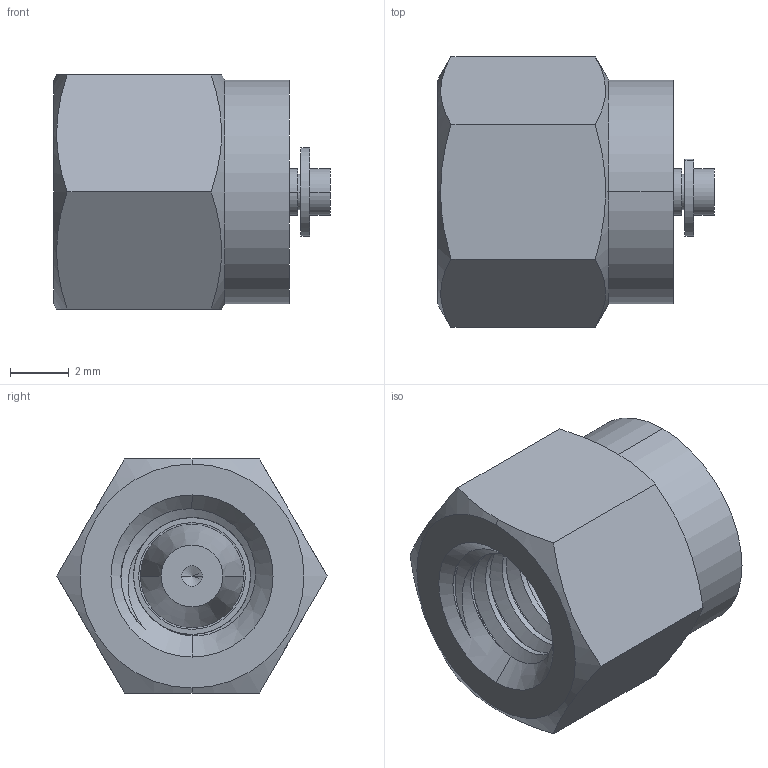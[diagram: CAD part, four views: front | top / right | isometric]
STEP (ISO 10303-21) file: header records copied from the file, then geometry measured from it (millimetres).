
FILE_DESCRIPTION (( 'STEP AP203' ), '1' );
FILE_NAME ('DBA01 SS.STEP', '2009-09-08T04:41:39', ( ' ' ), ( '' ), 'SwSTEP 2.0', 'SolidWorks 2008', '' );
FILE_SCHEMA (( 'CONFIG_CONTROL_DESIGN' ));
Length unit declared in the file: millimetre
Products named in the file (1): DBA01 SS
Bounding box: 9.39 x 9.17 x 7.94 mm (x, y, z)
Volume: 355.5 mm3; surface area: 469 mm2
Topology: 2 solids, 2 shells, 76 faces, 193 edges, 125 vertices
Faces by surface type: cylinder 38, plane 23, cone 12, bspline 3
Entity records: 3027 total; most frequent: CARTESIAN_POINT 1185, ORIENTED_EDGE 382, DIRECTION 360, EDGE_CURVE 191, AXIS2_PLACEMENT_3D 141, VERTEX_POINT 125, EDGE_LOOP 82, VECTOR 78
